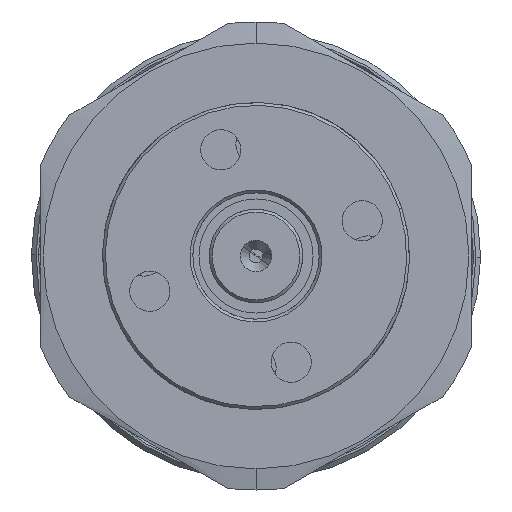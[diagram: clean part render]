
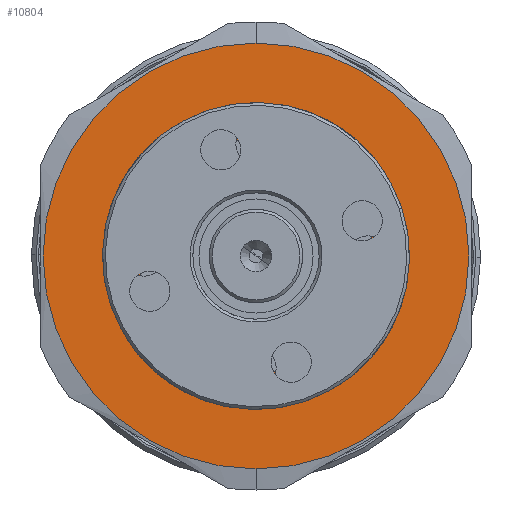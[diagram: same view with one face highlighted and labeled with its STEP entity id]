
A CAD part, front view. The second image highlights one B-rep face of the part: STEP entity #10804.
In plain terms, the highlighted planar face has unit normal (0, -1, 0).
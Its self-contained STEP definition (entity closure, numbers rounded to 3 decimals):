
#910 = EDGE_CURVE ( 'NONE', #8545, #8812, #9215, .T. ) ;
#931 = EDGE_CURVE ( 'NONE', #8293, #8325, #9632, .T. ) ;
#1215 = EDGE_CURVE ( 'NONE', #8325, #8293, #10096, .T. ) ;
#1359 = EDGE_CURVE ( 'NONE', #8812, #8545, #4924, .T. ) ;
#1400 = CARTESIAN_POINT ( 'NONE',  ( 0., 28., 12.5 ) ) ;
#2335 = FACE_BOUND ( 'NONE', #3759, .T. ) ;
#2353 = FACE_OUTER_BOUND ( 'NONE', #3772, .T. ) ;
#2366 = AXIS2_PLACEMENT_3D ( 'NONE', #9658, #9601, #9590 ) ;
#3759 = EDGE_LOOP ( 'NONE', ( #8416, #8439 ) ) ;
#3772 = EDGE_LOOP ( 'NONE', ( #8426, #8442 ) ) ;
#4269 = DIRECTION ( 'NONE',  ( 0., 1., 0. ) ) ;
#4571 = CARTESIAN_POINT ( 'NONE',  ( 0., 28., 0. ) ) ;
#4574 = DIRECTION ( 'NONE',  ( 0., 0., 1. ) ) ;
#4924 = CIRCLE ( 'NONE', #6220, 12.5 ) ;
#5236 = DIRECTION ( 'NONE',  ( 0., 0., 1. ) ) ;
#5237 = DIRECTION ( 'NONE',  ( 0., 1., 0. ) ) ;
#5238 = CARTESIAN_POINT ( 'NONE',  ( 0., 28., 0. ) ) ;
#5333 = DIRECTION ( 'NONE',  ( 0., 0., -1. ) ) ;
#5334 = DIRECTION ( 'NONE',  ( 0., -1., 0. ) ) ;
#5335 = CARTESIAN_POINT ( 'NONE',  ( 0., 28., 0. ) ) ;
#6220 = AXIS2_PLACEMENT_3D ( 'NONE', #8881, #8996, #8995 ) ;
#6265 = AXIS2_PLACEMENT_3D ( 'NONE', #4571, #4269, #4574 ) ;
#6635 = AXIS2_PLACEMENT_3D ( 'NONE', #5335, #5334, #5333 ) ;
#6636 = AXIS2_PLACEMENT_3D ( 'NONE', #5238, #5237, #5236 ) ;
#7538 = CARTESIAN_POINT ( 'NONE',  ( 0., 28., -12.5 ) ) ;
#7629 = CARTESIAN_POINT ( 'NONE',  ( 0., 28., 22.75 ) ) ;
#7653 = CARTESIAN_POINT ( 'NONE',  ( 0., 28., -22.75 ) ) ;
#8293 = VERTEX_POINT ( 'NONE', #7653 ) ;
#8325 = VERTEX_POINT ( 'NONE', #7629 ) ;
#8416 = ORIENTED_EDGE ( 'NONE', *, *, #910, .F. ) ;
#8426 = ORIENTED_EDGE ( 'NONE', *, *, #1215, .F. ) ;
#8439 = ORIENTED_EDGE ( 'NONE', *, *, #1359, .F. ) ;
#8442 = ORIENTED_EDGE ( 'NONE', *, *, #931, .F. ) ;
#8545 = VERTEX_POINT ( 'NONE', #7538 ) ;
#8812 = VERTEX_POINT ( 'NONE', #1400 ) ;
#8881 = CARTESIAN_POINT ( 'NONE',  ( 0., 28., 0. ) ) ;
#8995 = DIRECTION ( 'NONE',  ( 0., 0., -1. ) ) ;
#8996 = DIRECTION ( 'NONE',  ( 0., -1., 0. ) ) ;
#9215 = CIRCLE ( 'NONE', #6635, 12.5 ) ;
#9590 = DIRECTION ( 'NONE',  ( 0., 0., 1. ) ) ;
#9601 = DIRECTION ( 'NONE',  ( 0., 1., 0. ) ) ;
#9632 = CIRCLE ( 'NONE', #6636, 22.75 ) ;
#9658 = CARTESIAN_POINT ( 'NONE',  ( -25., 28., 0. ) ) ;
#9797 = PLANE ( 'NONE',  #2366 ) ;
#10096 = CIRCLE ( 'NONE', #6265, 22.75 ) ;
#10804 = ADVANCED_FACE ( 'NONE', ( #2335, #2353 ), #9797, .F. ) ;
